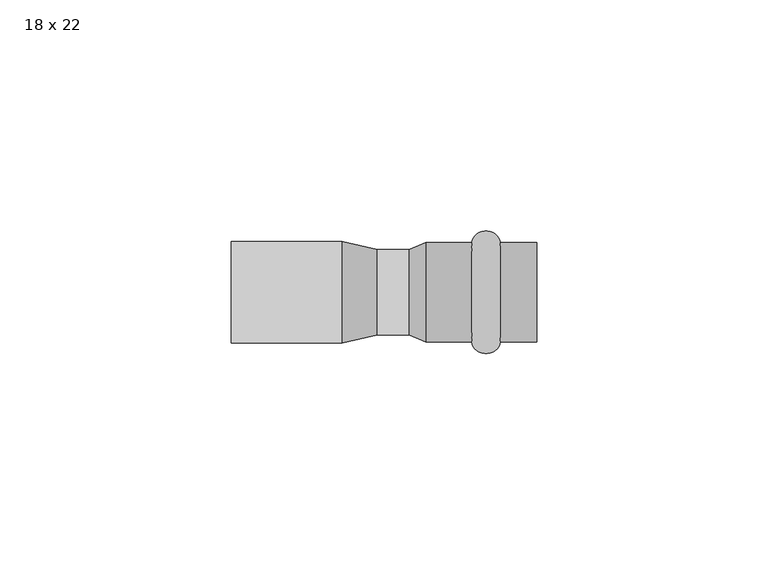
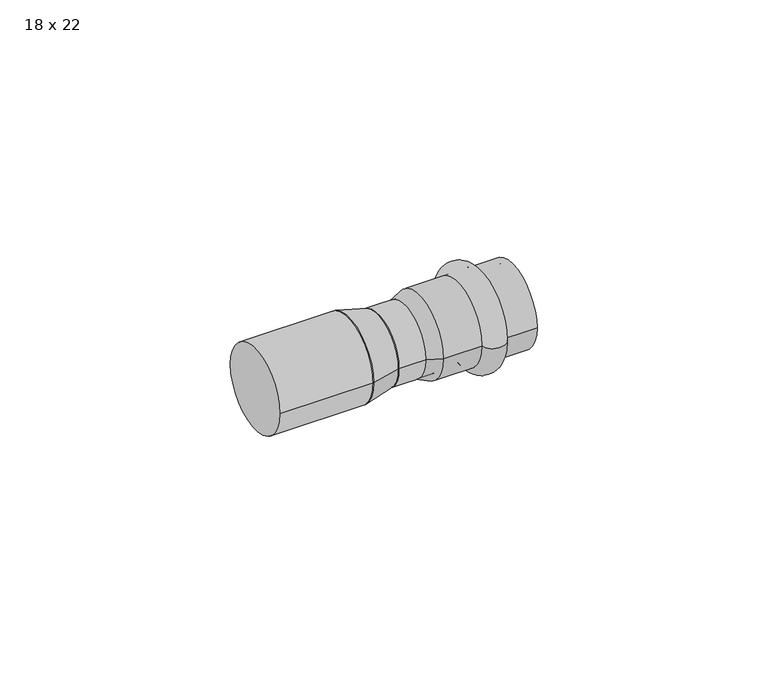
"""IFC4 building model written with IfcOpenShell, lengths in millimetres: pipe fitting geometry, РЕХАУ_Пресс Вставка переходная : 18 x 22."""

from ifc_helpers import new_model, si_unit, point, frame, origin, origin_2d, place, context, project, spatial, polyline, circle_curve, ellipse_curve, trimmed, segment, composite_curve, outline, extrude, source, transform, mapped, element, save
from ifc_brep_helpers import plane_surface, cylinder_surface, revolved_surface, advanced_brep


def pipe_fitting_18_x_22_92484bb6(model_context):
    return source(origin(), model_context, "Body", "SolidModel", [
        advanced_brep(
        [(58.1, 10.75, 0.0), (58.1, -10.75, 0.0), (52.0, -10.75, 0.0), (52.0, 10.75, 0.0)],
        [
            (0, 1, circle_curve(frame((58.1, 0.0, 0.0), z_axis=(1.0, 0.0, 0.0), x_axis=(0.0, -1.0, 0.0)), 10.75)),
            (1, 2),
            (2, 3, circle_curve(frame((52.0, 0.0, 0.0), z_axis=(-1.0, 0.0, 0.0), x_axis=(0.0, -1.0, 0.0)), 10.75)),
            (3, 0),
            (1, 0, circle_curve(frame((58.1, 0.0, 0.0), z_axis=(1.0, 0.0, 0.0), x_axis=(0.0, -1.0, 0.0)), 10.75)),
            (3, 2, circle_curve(frame((52.0, 0.0, 0.0), z_axis=(-1.0, 0.0, 0.0), x_axis=(0.0, -1.0, 0.0)), 10.75)),
            (2, 1, ellipse_curve(frame((55.05, -10.75, 0.0), z_axis=(0.0, 0.0, 1.0), x_axis=(1.0, 0.0, 0.0)), 3.05, 2.5)),
            (0, 3, ellipse_curve(frame((55.05, 10.75, 0.0), z_axis=(0.0, 0.0, 1.0), x_axis=(1.0, 0.0, 0.0)), 3.05, 2.5)),
        ],
        [
            revolved_surface(polyline([(52.0, -10.75, 0.0), (58.1, -10.75, 0.0)]), (39.0, 0.0, 0.0), (-1.0, 0.0, 0.0)),
            revolved_surface(trimmed(ellipse_curve(frame((55.05, -10.75, 0.0), z_axis=(0.0, 0.0, -1.0), x_axis=(1.0, 0.0, 0.0)), 3.05, 2.5), [point((58.1, -10.75, 0.0))], [point((52.0, -10.75, 0.0))], True, "CARTESIAN"), (39.0, 0.0, 0.0), (-1.0, 0.0, 0.0)),
        ],
        [
            (0, [[1, 2, 3, 4]]),
            (0, [[5, -4, 6, -2]]),
            (1, [[-3, 7, -1, 8]]),
            (1, [[-6, -8, -5, -7]]),
        ],
    ),
        advanced_brep(
        [(38.4662215, 9.25, 0.0), (38.4662215, -9.25, 0.0), (42.0, -10.75, 0.0), (42.0, 10.75, 0.0), (66.0, 9.25, 0.0), (66.0, -9.25, 0.0), (66.0, 10.75, 0.0), (66.0, -10.75, 0.0)],
        [
            (0, 1, circle_curve(frame((38.4662215, 0.0, 0.0), z_axis=(1.0, 0.0, 0.0), x_axis=(0.0, -1.0, 0.0)), 9.25)),
            (1, 2),
            (2, 3, circle_curve(frame((42.0, 0.0, 0.0), z_axis=(-1.0, 0.0, 0.0), x_axis=(0.0, -1.0, 0.0)), 10.75)),
            (3, 0),
            (1, 0, circle_curve(frame((38.4662215, 0.0, 0.0), z_axis=(1.0, 0.0, 0.0), x_axis=(0.0, -1.0, 0.0)), 9.25)),
            (3, 2, circle_curve(frame((42.0, 0.0, 0.0), z_axis=(-1.0, 0.0, 0.0), x_axis=(0.0, -1.0, 0.0)), 10.75)),
            (4, 5, circle_curve(frame((66.0, 0.0, 0.0), z_axis=(1.0, 0.0, 0.0), x_axis=(0.0, -1.0, 0.0)), 9.25)),
            (5, 1),
            (0, 4),
            (5, 4, circle_curve(frame((66.0, 0.0, 0.0), z_axis=(1.0, 0.0, 0.0), x_axis=(0.0, -1.0, 0.0)), 9.25)),
            (6, 7, circle_curve(frame((66.0, 0.0, 0.0), z_axis=(1.0, 0.0, 0.0), x_axis=(0.0, -1.0, 0.0)), 10.75)),
            (7, 5),
            (4, 6),
            (7, 6, circle_curve(frame((66.0, 0.0, 0.0), z_axis=(1.0, 0.0, 0.0), x_axis=(0.0, -1.0, 0.0)), 10.75)),
            (2, 7),
            (6, 3),
        ],
        [
            revolved_surface(polyline([(42.0, -10.75, 0.0), (38.4662215, -9.25, 0.0)]), (39.0, 0.0, 0.0), (-1.0, 0.0, 0.0)),
            revolved_surface(polyline([(38.4662215, -9.25, 0.0), (66.0, -9.25, 0.0)]), (39.0, 0.0, 0.0), (-1.0, 0.0, 0.0)),
            plane_surface(frame((66.0, 0.0, 0.0), z_axis=(1.0, 0.0, 0.0), x_axis=(0.0, -1.0, 0.0))),
            cylinder_surface(frame((39.0, 0.0, 0.0), z_axis=(-1.0, 0.0, 0.0), x_axis=(0.0, -1.0, 0.0)), 10.75),
        ],
        [
            (0, [[1, 2, 3, 4]]),
            (0, [[5, -4, 6, -2]]),
            (1, [[7, 8, -1, 9]]),
            (1, [[10, -9, -5, -8]]),
            (2, [[11, 12, -7, 13]]),
            (2, [[14, -13, -10, -12]]),
            (3, [[-3, 15, -11, 16]]),
            (3, [[-6, -16, -14, -15]]),
        ],
    ),
        extrude(outline(composite_curve([segment(trimmed(circle_curve(origin_2d(), 9.25), [point((-9.25, 0.0))], [point((9.25, 0.0))], False, "CARTESIAN"), True, "CONTINUOUS"), segment(trimmed(circle_curve(origin_2d(), 9.25), [point((9.25, 0.0))], [point((-9.25, 0.0))], False, "CARTESIAN"), True, "CONTINUOUS")], self_intersect=False)), frame((31.5, 0.0, 0.0), z_axis=(1.0, 0.0, 0.0), x_axis=(0.0, 1.0, 0.0)), (0.0, 0.0, 1.0), 10.5),
        advanced_brep(
        [(31.5, -9.25, 0.0), (31.5, 9.25, 0.0), (24.0, -11.0, 0.0), (24.0, 11.0, 0.0)],
        [
            (0, 1, circle_curve(frame((31.5, 0.0, 0.0), z_axis=(1.0, 0.0, 0.0), x_axis=(0.0, -1.0, 0.0)), 9.25)),
            (1, 0, circle_curve(frame((31.5, 0.0, 0.0), z_axis=(1.0, 0.0, 0.0), x_axis=(0.0, 1.0, 0.0)), 9.25)),
            (2, 3, circle_curve(frame((24.0, 0.0, 0.0), z_axis=(-1.0, 0.0, 0.0), x_axis=(0.0, 1.0, 0.0)), 11.0)),
            (3, 2, circle_curve(frame((24.0, 0.0, 0.0), z_axis=(-1.0, 0.0, 0.0), x_axis=(0.0, -1.0, 0.0)), 11.0)),
            (3, 1),
            (0, 2),
        ],
        [
            plane_surface(frame((31.5, 0.0, 0.0), z_axis=(1.0, 0.0, 0.0), x_axis=(0.0, 0.0, -1.0))),
            plane_surface(frame((24.0, 0.0, 0.0), z_axis=(-1.0, 0.0, 0.0), x_axis=(0.0, 0.0, -1.0))),
            revolved_surface(polyline([(31.5, -9.249999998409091, 0.0), (24.0, -11.0, 0.0)]), (71.1428571, 0.0, 0.0), (-1.0, 0.0, 0.0)),
            revolved_surface(polyline([(31.5, 9.249999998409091, 0.0), (24.0, 11.0, 0.0)]), (71.1428571, 0.0, 0.0), (-1.0, 0.0, 0.0)),
        ],
        [
            (0, [[1, 2]]),
            (1, [[3, 4]]),
            (2, [[-4, 5, -1, 6]]),
            (3, [[-3, -6, -2, -5]]),
        ],
    ),
        extrude(outline(composite_curve([segment(trimmed(circle_curve(origin_2d(), 11.0), [point((-11.0, 0.0))], [point((11.0, 0.0))], False, "CARTESIAN"), True, "CONTINUOUS"), segment(trimmed(circle_curve(origin_2d(), 11.0), [point((11.0, 0.0))], [point((-11.0, 0.0))], False, "CARTESIAN"), True, "CONTINUOUS")], self_intersect=False)), frame((0.0, 0.0, 0.0), z_axis=(1.0, 0.0, 0.0), x_axis=(0.0, 1.0, 0.0)), (0.0, 0.0, 1.0), 24.0),
    ])


if __name__ == "__main__":
    model = new_model("IFC4")
    model_context = context("Model", 3, world=origin())
    ifc_project = project(units=[si_unit("LENGTHUNIT", "METRE", prefix="MILLI")], contexts=[model_context])
    site = spatial("IfcSite", under=ifc_project)
    building = spatial("IfcBuilding", under=site)
    placement = place(None, origin())
    pipe_fitting_18_x_22_shape = pipe_fitting_18_x_22_92484bb6(model_context)
    element("IfcPipeFitting", 1, ObjectType="РЕХАУ_Пресс Вставка переходная : 18 x 22", at=placement, inside=building, context=model_context, shape_type="MappedRepresentation", body=[
        mapped(pipe_fitting_18_x_22_shape, transform((0.0, 0.0, 0.0), x_axis=(1.0, 0.0, 0.0), y_axis=(0.0, 1.0, 0.0), z_axis=(0.0, 0.0, 1.0))),
    ])
    save(model, "model.ifc")
